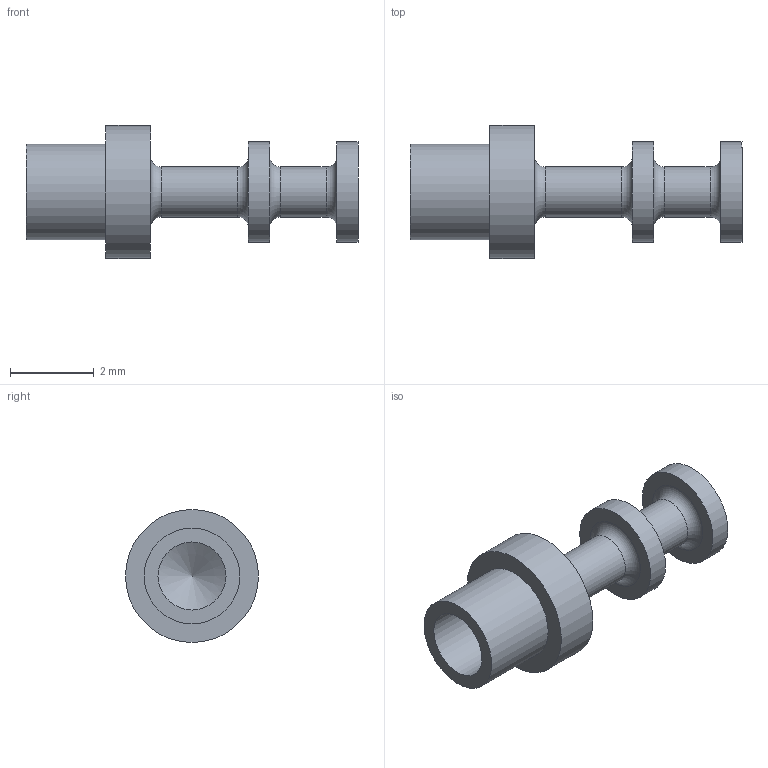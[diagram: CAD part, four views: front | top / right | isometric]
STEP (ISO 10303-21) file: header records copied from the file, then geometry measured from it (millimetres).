
FILE_DESCRIPTION(/* description */ (''),/* implementation_level */ '2;1');
FILE_NAME(/* name */ 'Z:\STEP folder\160-1026-01.ipt.stp',/* time_stamp */ '2016-12-07T10:45:43+00:00',/* author */ ('Paul Karlsons'),/* organization */ (''),/* preprocessor_version */ 'ST-DEVELOPER v15.2',/* originating_system */ 'Autodesk Inventor 2014',/* authorisation */ '');
FILE_SCHEMA (('AUTOMOTIVE_DESIGN { 1 0 10303 214 3 1 1 }'));
Length unit declared in the file: millimetre
Products named in the file (1): 160-1026-01
Bounding box: 7.92 x 3.17 x 3.17 mm (x, y, z)
Volume: 21.8 mm3; surface area: 82.8 mm2
Topology: 1 solids, 1 shells, 19 faces, 31 edges, 19 vertices
Faces by surface type: cylinder 7, plane 7, torus 4, cone 1
Full cylindrical faces by diameter (mm): 1.194 x2, 1.626 x1, 2.286 x1, 2.388 x2, 3.175 x1
Entity records: 395 total; most frequent: DIRECTION 76, CARTESIAN_POINT 56, AXIS2_PLACEMENT_3D 38, EDGE_LOOP 36, ORIENTED_EDGE 36, FACE_BOUND 20, ADVANCED_FACE 19, CIRCLE 18
